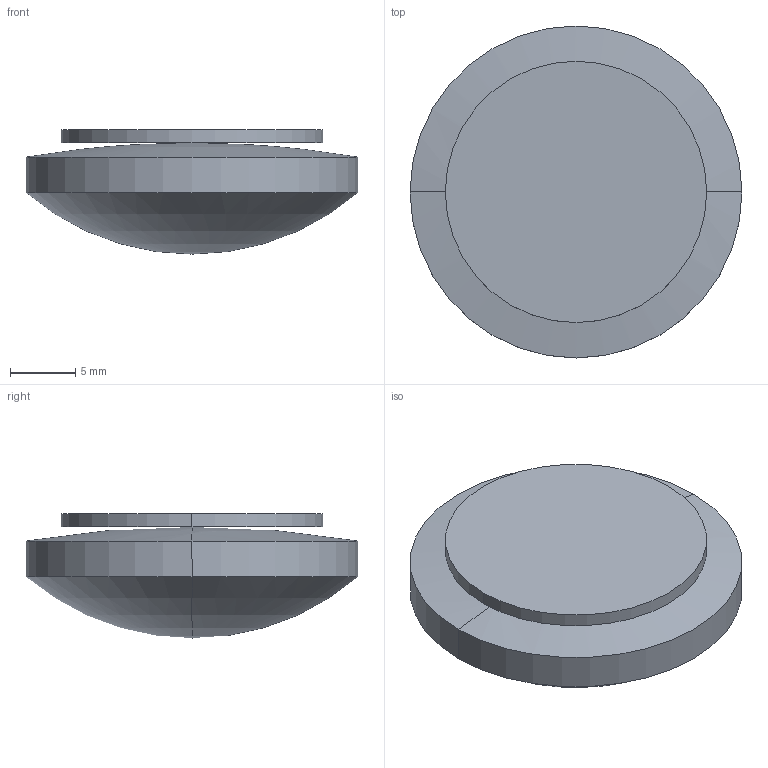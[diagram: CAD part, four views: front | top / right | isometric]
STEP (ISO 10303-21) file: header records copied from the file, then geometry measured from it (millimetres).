
FILE_DESCRIPTION(('STEP AP214'),'1');
FILE_NAME('LLF-25-40.STEP','2020-03-09T17:41:21',(' '),(' '),'Spatial InterOp 3D',' ',' ');
FILE_SCHEMA(('AUTOMOTIVE_DESIGN { 1 0 10303 214 1 1 1 1 }'));
Length unit declared in the file: millimetre
Products named in the file (1): 1
Bounding box: 25.4 x 25.4 x 9.5 mm (x, y, z)
Volume: 3215.1 mm3; surface area: 1995.5 mm2
Topology: 2 solids, 2 shells, 10 faces, 20 edges, 10 vertices
Faces by surface type: sphere 4, cylinder 4, plane 2
Entity records: 255 total; most frequent: DIRECTION 52, CARTESIAN_POINT 38, ORIENTED_EDGE 32, AXIS2_PLACEMENT_3D 24, EDGE_CURVE 16, CIRCLE 12, ADVANCED_FACE 10, FACE_OUTER_BOUND 10
